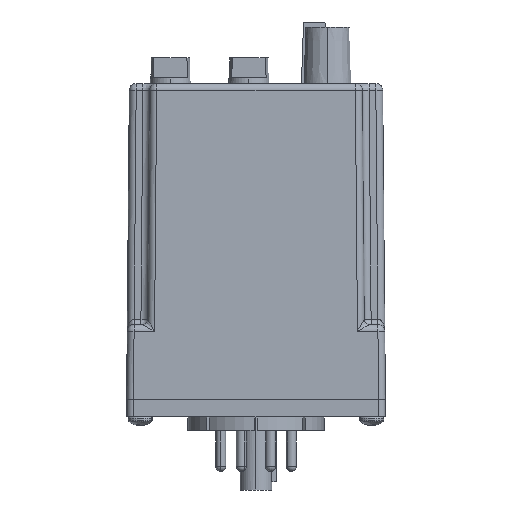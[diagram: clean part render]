
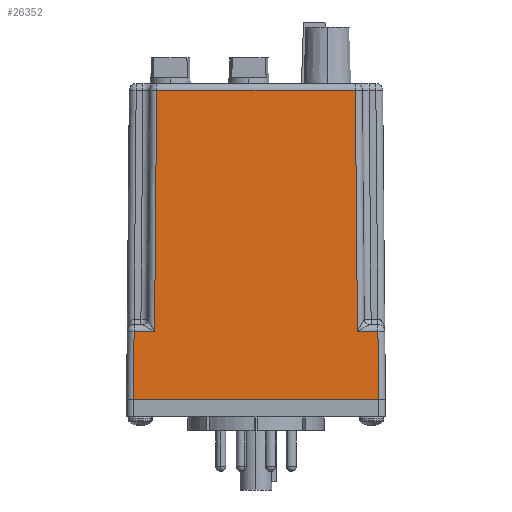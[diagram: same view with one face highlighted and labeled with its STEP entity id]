
A CAD part, left-side view. The second image highlights one B-rep face of the part: STEP entity #26352.
In plain terms, the highlighted planar face has unit normal (-1, 0, 0.009).
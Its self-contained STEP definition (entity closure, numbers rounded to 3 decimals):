
#1291 = VERTEX_POINT ( 'NONE', #15080 ) ;
#1401 = CARTESIAN_POINT ( 'NONE',  ( -22.225, -28.562, -0.014 ) ) ;
#2268 = VECTOR ( 'NONE', #7391, 1000. ) ;
#2636 = DIRECTION ( 'NONE',  ( 0.009, 0., 1. ) ) ;
#2731 = CARTESIAN_POINT ( 'NONE',  ( -22.086, 23.649, 15.889 ) ) ;
#3462 = LINE ( 'NONE', #5669, #11346 ) ;
#4409 = EDGE_CURVE ( 'NONE', #25689, #10972, #23309, .T. ) ;
#5035 = EDGE_CURVE ( 'NONE', #28755, #12510, #12694, .T. ) ;
#5669 = CARTESIAN_POINT ( 'NONE',  ( -22.221, 23.783, 0.471 ) ) ;
#6514 = CARTESIAN_POINT ( 'NONE',  ( -22.086, 28.41, 15.889 ) ) ;
#7069 = LINE ( 'NONE', #25365, #2268 ) ;
#7224 = CARTESIAN_POINT ( 'NONE',  ( -22.225, -23.788, -0.056 ) ) ;
#7391 = DIRECTION ( 'NONE',  ( 0., 1., 0. ) ) ;
#7522 = ORIENTED_EDGE ( 'NONE', *, *, #9729, .T. ) ;
#8057 = VECTOR ( 'NONE', #22583, 1000. ) ;
#8325 = ORIENTED_EDGE ( 'NONE', *, *, #14815, .T. ) ;
#8645 = CARTESIAN_POINT ( 'NONE',  ( -22.225, -30.163, 0. ) ) ;
#8855 = LINE ( 'NONE', #1401, #20061 ) ;
#9636 = CARTESIAN_POINT ( 'NONE',  ( -22.225, 28.562, 0. ) ) ;
#9729 = EDGE_CURVE ( 'NONE', #30880, #28755, #29710, .T. ) ;
#10197 = EDGE_LOOP ( 'NONE', ( #15251, #7522, #29658, #29420, #25068, #15192, #23017, #8325 ) ) ;
#10580 = FACE_OUTER_BOUND ( 'NONE', #10197, .T. ) ;
#10972 = VERTEX_POINT ( 'NONE', #13074 ) ;
#11346 = VECTOR ( 'NONE', #19412, 1000. ) ;
#11503 = VECTOR ( 'NONE', #28055, 1000. ) ;
#11718 = DIRECTION ( 'NONE',  ( 0.009, 0.009, 1. ) ) ;
#12369 = CARTESIAN_POINT ( 'NONE',  ( -22.225, -28.562, 0. ) ) ;
#12483 = EDGE_CURVE ( 'NONE', #12510, #18300, #21543, .T. ) ;
#12510 = VERTEX_POINT ( 'NONE', #9636 ) ;
#12532 = DIRECTION ( 'NONE',  ( -0.009, 0.009, -1. ) ) ;
#12694 = LINE ( 'NONE', #23066, #30029 ) ;
#12891 = CARTESIAN_POINT ( 'NONE',  ( -22.086, 28.424, 15.889 ) ) ;
#13074 = CARTESIAN_POINT ( 'NONE',  ( -21.596, -23.158, 72.074 ) ) ;
#14815 = EDGE_CURVE ( 'NONE', #10972, #1291, #30360, .T. ) ;
#15080 = CARTESIAN_POINT ( 'NONE',  ( -21.596, 23.158, 72.074 ) ) ;
#15192 = ORIENTED_EDGE ( 'NONE', *, *, #23957, .T. ) ;
#15251 = ORIENTED_EDGE ( 'NONE', *, *, #28492, .T. ) ;
#16027 = DIRECTION ( 'NONE',  ( -1., 0., 0.009 ) ) ;
#16169 = AXIS2_PLACEMENT_3D ( 'NONE', #29057, #16027, #2636 ) ;
#16174 = VECTOR ( 'NONE', #19836, 1000. ) ;
#16840 = EDGE_CURVE ( 'NONE', #18300, #32198, #8855, .T. ) ;
#18300 = VERTEX_POINT ( 'NONE', #12369 ) ;
#19412 = DIRECTION ( 'NONE',  ( -0.009, 0.009, -1. ) ) ;
#19836 = DIRECTION ( 'NONE',  ( 0., -1., 0. ) ) ;
#20061 = VECTOR ( 'NONE', #11718, 1000. ) ;
#21543 = LINE ( 'NONE', #8645, #16174 ) ;
#22081 = VECTOR ( 'NONE', #27018, 1000. ) ;
#22583 = DIRECTION ( 'NONE',  ( 0., 1., 0. ) ) ;
#23017 = ORIENTED_EDGE ( 'NONE', *, *, #4409, .T. ) ;
#23066 = CARTESIAN_POINT ( 'NONE',  ( -22.221, 28.558, 0.512 ) ) ;
#23309 = LINE ( 'NONE', #7224, #11503 ) ;
#23957 = EDGE_CURVE ( 'NONE', #32198, #25689, #7069, .T. ) ;
#24615 = CARTESIAN_POINT ( 'NONE',  ( -21.596, 23.144, 72.074 ) ) ;
#25068 = ORIENTED_EDGE ( 'NONE', *, *, #16840, .T. ) ;
#25365 = CARTESIAN_POINT ( 'NONE',  ( -22.086, -23.635, 15.889 ) ) ;
#25689 = VERTEX_POINT ( 'NONE', #28180 ) ;
#26352 = ADVANCED_FACE ( 'NONE', ( #10580 ), #26527, .T. ) ;
#26527 = PLANE ( 'NONE',  #16169 ) ;
#27018 = DIRECTION ( 'NONE',  ( 0., 1., 0. ) ) ;
#28055 = DIRECTION ( 'NONE',  ( 0.009, 0.009, 1. ) ) ;
#28180 = CARTESIAN_POINT ( 'NONE',  ( -22.086, -23.649, 15.889 ) ) ;
#28492 = EDGE_CURVE ( 'NONE', #1291, #30880, #3462, .T. ) ;
#28755 = VERTEX_POINT ( 'NONE', #12891 ) ;
#29046 = CARTESIAN_POINT ( 'NONE',  ( -22.086, -28.424, 15.889 ) ) ;
#29057 = CARTESIAN_POINT ( 'NONE',  ( -22.225, -30.163, 0. ) ) ;
#29420 = ORIENTED_EDGE ( 'NONE', *, *, #12483, .T. ) ;
#29658 = ORIENTED_EDGE ( 'NONE', *, *, #5035, .T. ) ;
#29710 = LINE ( 'NONE', #6514, #22081 ) ;
#30029 = VECTOR ( 'NONE', #12532, 1000. ) ;
#30360 = LINE ( 'NONE', #24615, #8057 ) ;
#30880 = VERTEX_POINT ( 'NONE', #2731 ) ;
#32198 = VERTEX_POINT ( 'NONE', #29046 ) ;
